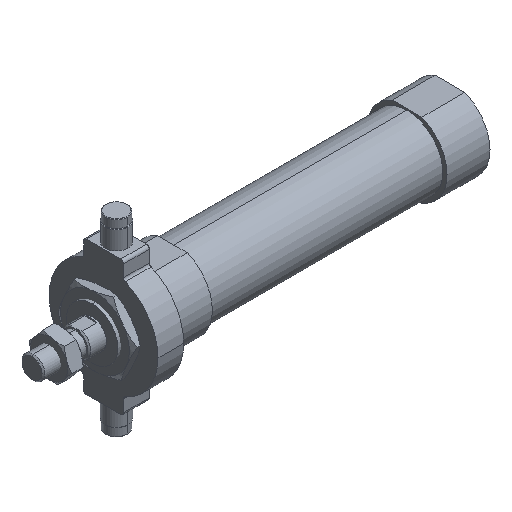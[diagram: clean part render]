
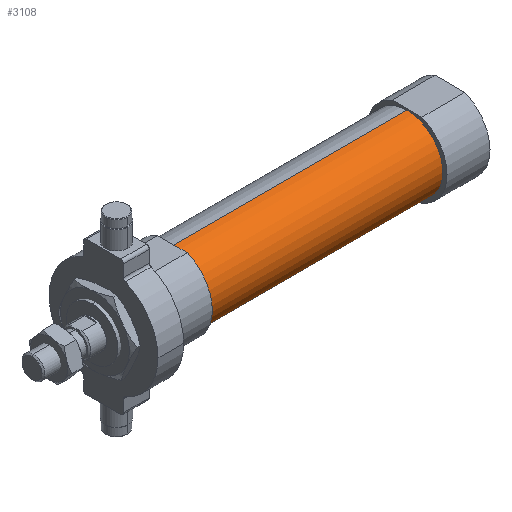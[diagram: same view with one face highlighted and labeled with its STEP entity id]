
A CAD part, isometric view. The second image highlights one B-rep face of the part: STEP entity #3108.
In plain terms, the highlighted cylindrical face has radius 12.5 mm (diameter 25 mm), a partial arc.
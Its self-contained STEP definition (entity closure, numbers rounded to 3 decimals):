
#475 = CARTESIAN_POINT ( 'NONE',  ( -6.469, 0., -12.5 ) ) ;
#494 = AXIS2_PLACEMENT_3D ( 'NONE', #1849, #3484, #3123 ) ;
#628 = EDGE_CURVE ( 'NONE', #2955, #1405, #781, .T. ) ;
#727 = CIRCLE ( 'NONE', #2892, 12.5 ) ;
#766 = VERTEX_POINT ( 'NONE', #1765 ) ;
#781 = LINE ( 'NONE', #3952, #2208 ) ;
#926 = EDGE_CURVE ( 'NONE', #766, #2955, #727, .T. ) ;
#1405 = VERTEX_POINT ( 'NONE', #4005 ) ;
#1407 = CARTESIAN_POINT ( 'NONE',  ( 49., 0., 0. ) ) ;
#1473 = DIRECTION ( 'NONE',  ( -1., 0., 0. ) ) ;
#1519 = CIRCLE ( 'NONE', #2784, 12.5 ) ;
#1764 = ORIENTED_EDGE ( 'NONE', *, *, #628, .T. ) ;
#1765 = CARTESIAN_POINT ( 'NONE',  ( 131., 0., -12.5 ) ) ;
#1849 = CARTESIAN_POINT ( 'NONE',  ( -6.469, 0., 0. ) ) ;
#2102 = DIRECTION ( 'NONE',  ( 0., 0., 1. ) ) ;
#2202 = FACE_OUTER_BOUND ( 'NONE', #2973, .T. ) ;
#2208 = VECTOR ( 'NONE', #2633, 1000. ) ;
#2297 = LINE ( 'NONE', #475, #2720 ) ;
#2477 = DIRECTION ( 'NONE',  ( -1., 0., 0. ) ) ;
#2633 = DIRECTION ( 'NONE',  ( -1., 0., 0. ) ) ;
#2720 = VECTOR ( 'NONE', #2477, 1000. ) ;
#2784 = AXIS2_PLACEMENT_3D ( 'NONE', #1407, #3762, #2102 ) ;
#2892 = AXIS2_PLACEMENT_3D ( 'NONE', #3817, #1473, #3791 ) ;
#2955 = VERTEX_POINT ( 'NONE', #3707 ) ;
#2973 = EDGE_LOOP ( 'NONE', ( #3373, #4158, #1764, #3960 ) ) ;
#3108 = ADVANCED_FACE ( 'NONE', ( #2202 ), #4129, .T. ) ;
#3123 = DIRECTION ( 'NONE',  ( 0., 0., 1. ) ) ;
#3252 = VERTEX_POINT ( 'NONE', #3606 ) ;
#3373 = ORIENTED_EDGE ( 'NONE', *, *, #3884, .F. ) ;
#3484 = DIRECTION ( 'NONE',  ( -1., 0., 0. ) ) ;
#3606 = CARTESIAN_POINT ( 'NONE',  ( 49., 0., -12.5 ) ) ;
#3707 = CARTESIAN_POINT ( 'NONE',  ( 131., 0., 12.5 ) ) ;
#3762 = DIRECTION ( 'NONE',  ( -1., 0., 0. ) ) ;
#3791 = DIRECTION ( 'NONE',  ( 0., 0., 1. ) ) ;
#3817 = CARTESIAN_POINT ( 'NONE',  ( 131., 0., 0. ) ) ;
#3884 = EDGE_CURVE ( 'NONE', #766, #3252, #2297, .T. ) ;
#3952 = CARTESIAN_POINT ( 'NONE',  ( -6.469, 0., 12.5 ) ) ;
#3960 = ORIENTED_EDGE ( 'NONE', *, *, #4252, .F. ) ;
#4005 = CARTESIAN_POINT ( 'NONE',  ( 49., 0., 12.5 ) ) ;
#4129 = CYLINDRICAL_SURFACE ( 'NONE', #494, 12.5 ) ;
#4158 = ORIENTED_EDGE ( 'NONE', *, *, #926, .T. ) ;
#4252 = EDGE_CURVE ( 'NONE', #3252, #1405, #1519, .T. ) ;
